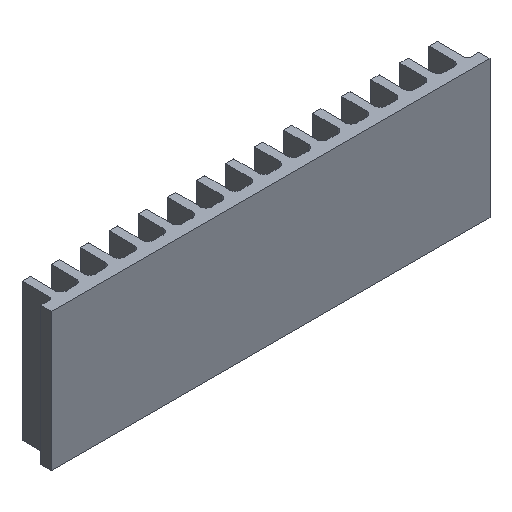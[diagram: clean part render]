
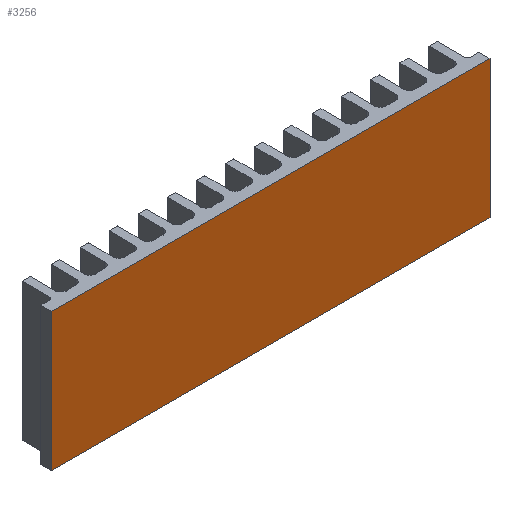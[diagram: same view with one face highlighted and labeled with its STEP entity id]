
A CAD part, isometric view. The second image highlights one B-rep face of the part: STEP entity #3256.
In plain terms, the highlighted planar face has unit normal (0, -1, 0).
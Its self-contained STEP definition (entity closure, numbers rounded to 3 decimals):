
#51 = ORIENTED_EDGE ( 'NONE', *, *, #323, .T. ) ;
#75 = ORIENTED_EDGE ( 'NONE', *, *, #212, .F. ) ;
#101 = ORIENTED_EDGE ( 'NONE', *, *, #3173, .T. ) ;
#212 = EDGE_CURVE ( 'NONE', #731, #1012, #2422, .T. ) ;
#248 = ORIENTED_EDGE ( 'NONE', *, *, #957, .F. ) ;
#323 = EDGE_CURVE ( 'NONE', #731, #730, #2813, .T. ) ;
#571 = EDGE_LOOP ( 'NONE', ( #101, #248, #75, #51 ) ) ;
#730 = VERTEX_POINT ( 'NONE', #2140 ) ;
#731 = VERTEX_POINT ( 'NONE', #2141 ) ;
#957 = EDGE_CURVE ( 'NONE', #1012, #2109, #2496, .T. ) ;
#1012 = VERTEX_POINT ( 'NONE', #2544 ) ;
#1459 = LINE ( 'NONE', #1460, #1461 ) ;
#1460 = CARTESIAN_POINT ( 'NONE',  ( 79.5, 0., 0. ) ) ;
#1461 = VECTOR ( 'NONE', #1462, 1000. ) ;
#1462 = DIRECTION ( 'NONE',  ( 1., 0., 0. ) ) ;
#2109 = VERTEX_POINT ( 'NONE', #2997 ) ;
#2140 = CARTESIAN_POINT ( 'NONE',  ( -79.5, 0., 0. ) ) ;
#2141 = CARTESIAN_POINT ( 'NONE',  ( -79.5, 0., 50. ) ) ;
#2224 = FACE_OUTER_BOUND ( 'NONE', #571, .T. ) ;
#2225 = PLANE ( 'NONE',  #2226 ) ;
#2226 = AXIS2_PLACEMENT_3D ( 'NONE', #2227, #2228, #2229 ) ;
#2227 = CARTESIAN_POINT ( 'NONE',  ( 79.5, 0., 50. ) ) ;
#2228 = DIRECTION ( 'NONE',  ( 0., 1., 0. ) ) ;
#2229 = DIRECTION ( 'NONE',  ( 0., 0., 1. ) ) ;
#2422 = LINE ( 'NONE', #2423, #2424 ) ;
#2423 = CARTESIAN_POINT ( 'NONE',  ( 79.5, 0., 50. ) ) ;
#2424 = VECTOR ( 'NONE', #2425, 1000. ) ;
#2425 = DIRECTION ( 'NONE',  ( 1., 0., 0. ) ) ;
#2496 = LINE ( 'NONE', #2497, #2498 ) ;
#2497 = CARTESIAN_POINT ( 'NONE',  ( 79.5, 0., 50. ) ) ;
#2498 = VECTOR ( 'NONE', #2499, 1000. ) ;
#2499 = DIRECTION ( 'NONE',  ( 0., 0., -1. ) ) ;
#2544 = CARTESIAN_POINT ( 'NONE',  ( 79.5, 0., 50. ) ) ;
#2813 = LINE ( 'NONE', #2814, #2815 ) ;
#2814 = CARTESIAN_POINT ( 'NONE',  ( -79.5, 0., 50. ) ) ;
#2815 = VECTOR ( 'NONE', #2816, 1000. ) ;
#2816 = DIRECTION ( 'NONE',  ( 0., 0., -1. ) ) ;
#2997 = CARTESIAN_POINT ( 'NONE',  ( 79.5, 0., 0. ) ) ;
#3173 = EDGE_CURVE ( 'NONE', #730, #2109, #1459, .T. ) ;
#3256 = ADVANCED_FACE ( 'NONE', ( #2224 ), #2225, .F. ) ;
